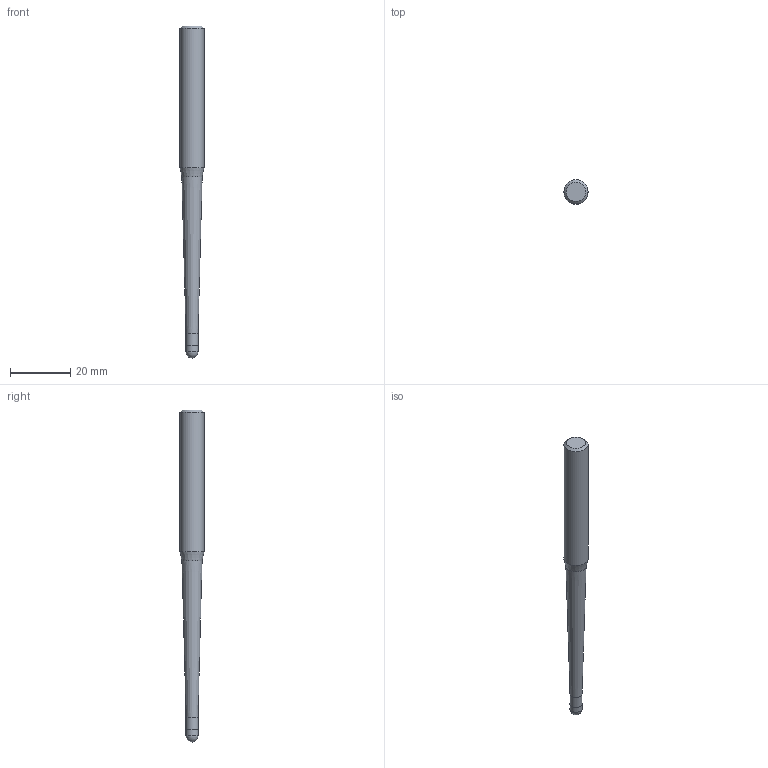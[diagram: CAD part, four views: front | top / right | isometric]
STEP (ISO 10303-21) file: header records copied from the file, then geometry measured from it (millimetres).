
FILE_DESCRIPTION((''),'2;1');
FILE_NAME('C:\Users\nsx150\AppData\Local\Temp\Mastercam 2021\SNAKH10GOD\TEMP.step','2021-10-21T13:33:34',(''),(''),'STEP Write','Mastercam 2021 ... CNC Software, Inc.','');
FILE_SCHEMA(('AUTOMOTIVE_DESIGN'));
Length unit declared in the file: millimetre
Products named in the file (1): None
Bounding box: 8 x 8 x 110 mm (x, y, z)
Volume: 3769 mm3; surface area: 2289.4 mm2
Topology: 2 solids, 2 shells, 10 faces, 16 edges, 9 vertices
Faces by surface type: plane 3, cylinder 3, cone 3, sphere 1
Full cylindrical faces by diameter (mm): 3.98 x1, 4 x1, 8 x1
Entity records: 232 total; most frequent: DIRECTION 40, CARTESIAN_POINT 28, AXIS2_PLACEMENT_3D 20, ORIENTED_EDGE 16, EDGE_LOOP 16, STYLED_ITEM 13, ADVANCED_FACE 10, FACE_BOUND 9
